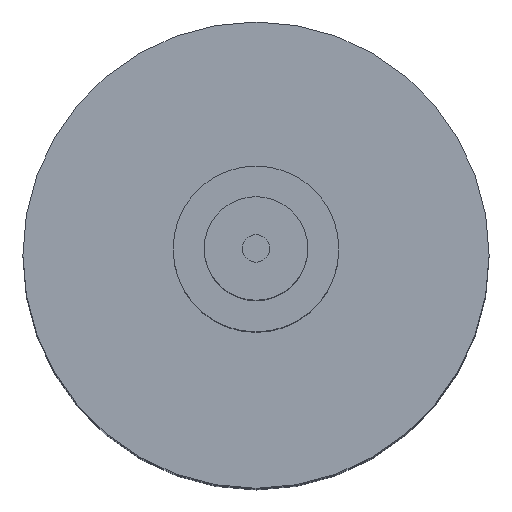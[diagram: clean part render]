
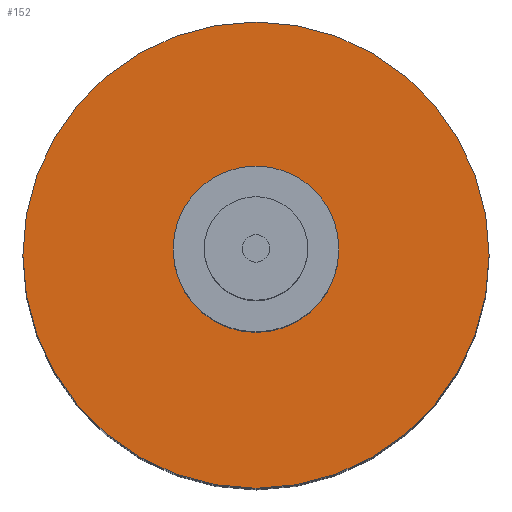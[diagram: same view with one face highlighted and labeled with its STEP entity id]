
A CAD part, top view. The second image highlights one B-rep face of the part: STEP entity #152.
In plain terms, the highlighted planar face has unit normal (0, 0, 1) as drawn and (-1, 0, 0) by its records, which use the part's own axes.
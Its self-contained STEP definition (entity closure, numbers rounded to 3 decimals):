
#152 = ADVANCED_FACE ( 'NONE', ( #661, #660 ), #659, .F. ) ;
#153 = EDGE_LOOP ( 'NONE', ( #154, #156 ) ) ;
#154 = ORIENTED_EDGE ( 'NONE', *, *, #155, .F. ) ;
#155 = EDGE_CURVE ( 'NONE', #320, #318, #654, .T. ) ;
#156 = ORIENTED_EDGE ( 'NONE', *, *, #314, .F. ) ;
#157 = EDGE_LOOP ( 'NONE', ( #158, #160 ) ) ;
#158 = ORIENTED_EDGE ( 'NONE', *, *, #159, .F. ) ;
#159 = EDGE_CURVE ( 'NONE', #212, #209, #649, .T. ) ;
#160 = ORIENTED_EDGE ( 'NONE', *, *, #211, .F. ) ;
#209 = VERTEX_POINT ( 'NONE', #558 ) ;
#211 = EDGE_CURVE ( 'NONE', #209, #212, #557, .T. ) ;
#212 = VERTEX_POINT ( 'NONE', #871 ) ;
#244 = DIRECTION ( 'NONE',  ( -1., 0., 0. ) ) ;
#314 = EDGE_CURVE ( 'NONE', #318, #320, #783, .T. ) ;
#318 = VERTEX_POINT ( 'NONE', #777 ) ;
#320 = VERTEX_POINT ( 'NONE', #772 ) ;
#326 = DIRECTION ( 'NONE',  ( 0., 0., -1. ) ) ;
#555 = CARTESIAN_POINT ( 'NONE',  ( 31., 0., 0. ) ) ;
#556 = AXIS2_PLACEMENT_3D ( 'NONE', #555, #244, #326 ) ;
#557 = CIRCLE ( 'NONE', #556, 0.35 ) ;
#558 = CARTESIAN_POINT ( 'NONE',  ( 31., 0., 0.35 ) ) ;
#645 = DIRECTION ( 'NONE',  ( 0., 0., -1. ) ) ;
#646 = DIRECTION ( 'NONE',  ( -1., 0., 0. ) ) ;
#647 = CARTESIAN_POINT ( 'NONE',  ( 31., 0., 0. ) ) ;
#648 = AXIS2_PLACEMENT_3D ( 'NONE', #647, #646, #645 ) ;
#649 = CIRCLE ( 'NONE', #648, 0.35 ) ;
#650 = DIRECTION ( 'NONE',  ( 0., 0., -1. ) ) ;
#651 = DIRECTION ( 'NONE',  ( 1., 0., 0. ) ) ;
#652 = CARTESIAN_POINT ( 'NONE',  ( 31., 0., 0. ) ) ;
#653 = AXIS2_PLACEMENT_3D ( 'NONE', #652, #651, #650 ) ;
#654 = CIRCLE ( 'NONE', #653, 2.25 ) ;
#655 = DIRECTION ( 'NONE',  ( 0., 0., -1. ) ) ;
#656 = DIRECTION ( 'NONE',  ( 1., 0., 0. ) ) ;
#657 = CARTESIAN_POINT ( 'NONE',  ( 31., 0., 0. ) ) ;
#658 = AXIS2_PLACEMENT_3D ( 'NONE', #657, #656, #655 ) ;
#659 = PLANE ( 'NONE',  #658 ) ;
#660 = FACE_BOUND ( 'NONE', #157, .T. ) ;
#661 = FACE_OUTER_BOUND ( 'NONE', #153, .T. ) ;
#772 = CARTESIAN_POINT ( 'NONE',  ( 31., 0., 2.25 ) ) ;
#777 = CARTESIAN_POINT ( 'NONE',  ( 31., 0., -2.25 ) ) ;
#779 = DIRECTION ( 'NONE',  ( 0., 0., -1. ) ) ;
#780 = DIRECTION ( 'NONE',  ( 1., 0., 0. ) ) ;
#781 = CARTESIAN_POINT ( 'NONE',  ( 31., 0., 0. ) ) ;
#782 = AXIS2_PLACEMENT_3D ( 'NONE', #781, #780, #779 ) ;
#783 = CIRCLE ( 'NONE', #782, 2.25 ) ;
#871 = CARTESIAN_POINT ( 'NONE',  ( 31., 0., -0.35 ) ) ;
